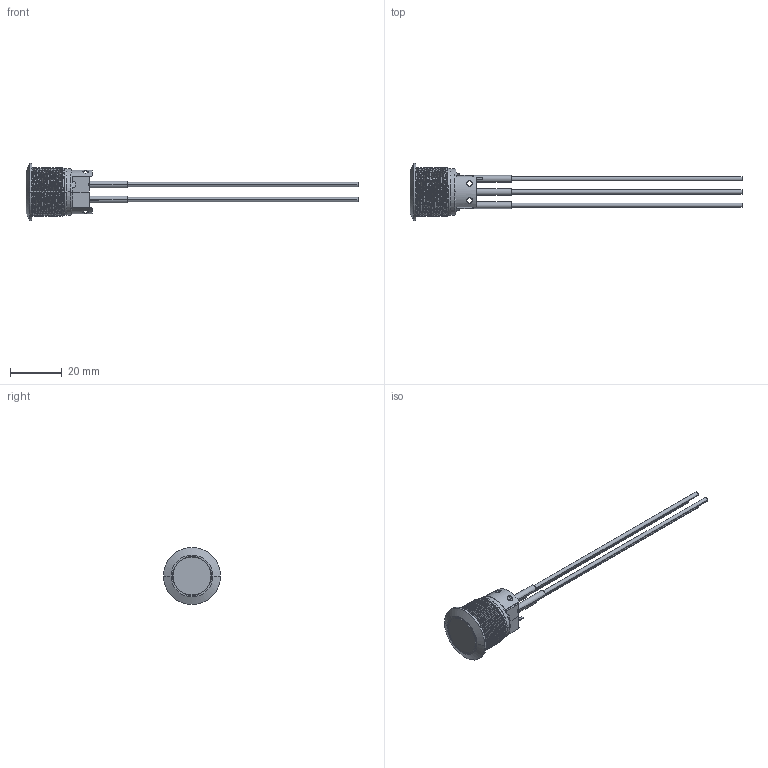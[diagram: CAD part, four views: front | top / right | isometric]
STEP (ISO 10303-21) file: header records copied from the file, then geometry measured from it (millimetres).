
FILE_DESCRIPTION((''),'2;1');
FILE_NAME('AV19LP40904','2010-05-17T',('jlgachon'),(''),'PRO/ENGINEER BY PARAMETRIC TECHNOLOGY CORPORATION, 2009440','PRO/ENGINEER BY PARAMETRIC TECHNOLOGY CORPORATION, 2009440','');
FILE_SCHEMA(('CONFIG_CONTROL_DESIGN'));
Length unit declared in the file: millimetre
Products named in the file (1): AV19LP40904
Bounding box: 127.96 x 22 x 22 mm (x, y, z)
Surface area: 5696 mm2 (no closed solid volume)
Topology: 0 solids, 14 shells, 140 faces, 464 edges, 336 vertices
Faces by surface type: cylinder 62, plane 55, bspline 12, cone 7, sphere 2, torus 2
Entity records: 14111 total; most frequent: CARTESIAN_POINT 10256, ORIENTED_EDGE 755, DIRECTION 706, EDGE_CURVE 464, VERTEX_POINT 336, VECTOR 238, LINE 238, AXIS2_PLACEMENT_3D 234
